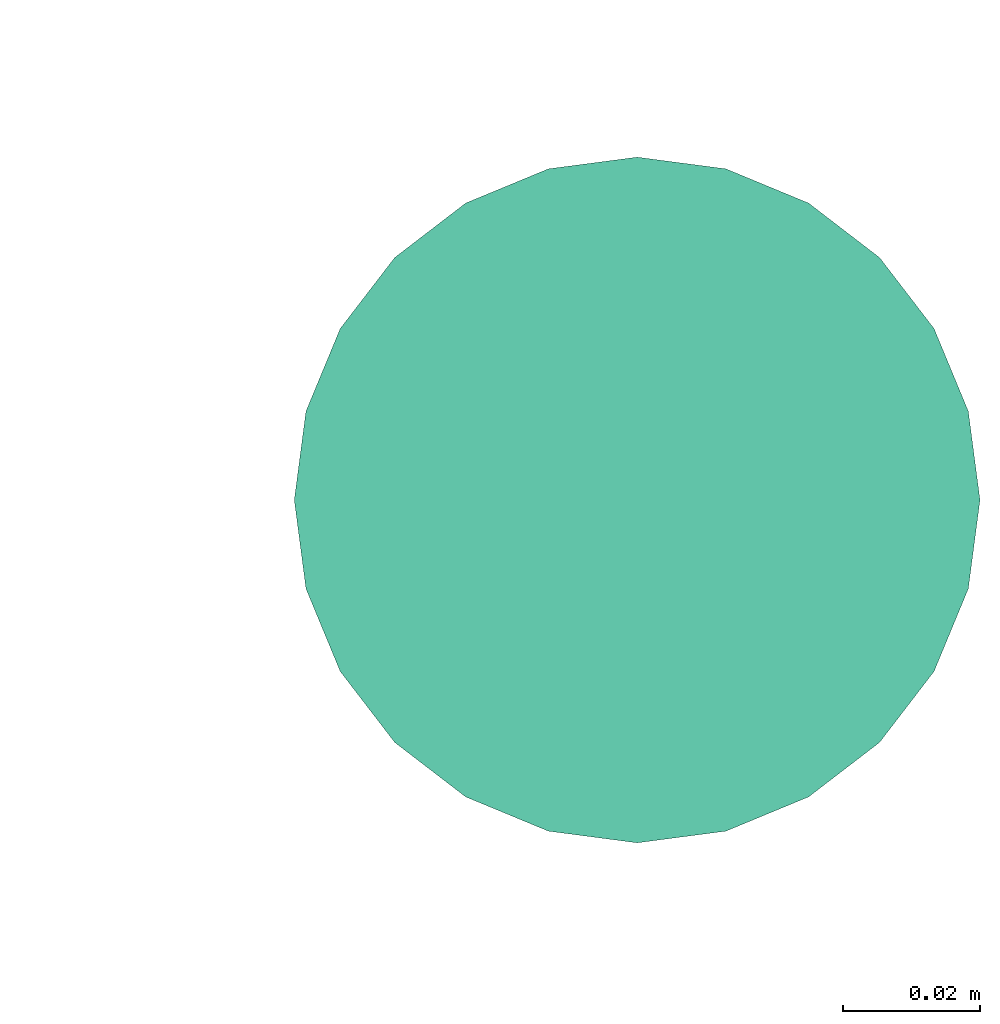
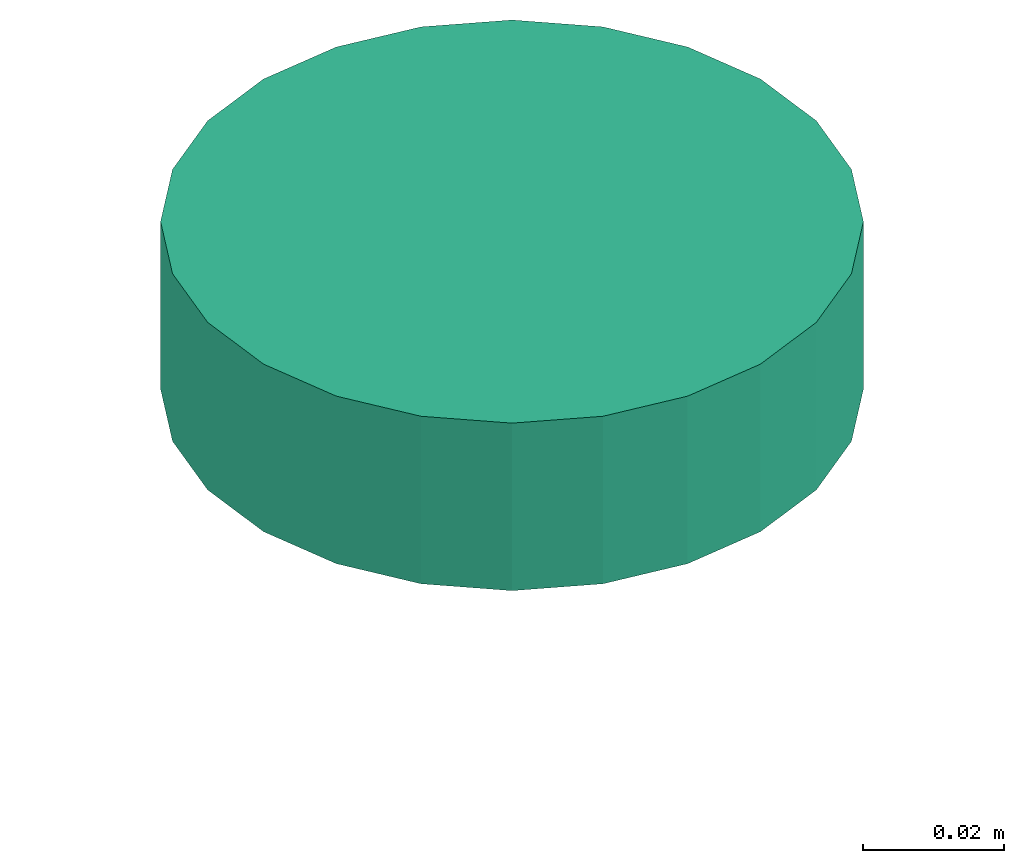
# One storey, part 2 of 3: 1 distribution control element.
"""IFC2X3 building model written with IfcOpenShell, lengths in millimetres."""

from ifc_helpers import new_model, entity, si_unit, converted_unit, derived_unit, direction, frame, origin_with_axes, place, context, subcontext, project, spatial, open_shell, surface_model, source, transform, mapped, type_object, element, save


model = new_model("IFC2X3")

# Units and contexts
model_context = context("Model", 3, precision=0.01, world=frame((0.0, 4.29681676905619e-09, 0.0)), true_north=direction((4.01073788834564e-13, 1.0)))
plan_context = context("Plan", 3, precision=0.01, world=frame((0.0, 4.29681676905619e-09, 0.0)), true_north=direction((4.01073788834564e-13, 1.0)))
body_context = subcontext(model_context, "Body", "Model", "MODEL_VIEW")
ifc_project = project(units=[converted_unit("PLANEANGLEUNIT", "DEGREE", entity("IfcPositiveLengthMeasure", 0.0174532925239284), si_unit("PLANEANGLEUNIT", "RADIAN"), dimensions=[0, 0, 0, 0, 0, 0, 0]), si_unit("AREAUNIT", "SQUARE_METRE"), si_unit("LENGTHUNIT", "METRE", prefix="MILLI"), si_unit("MASSUNIT", "GRAM", prefix="KILO"), si_unit("POWERUNIT", "WATT"), si_unit("PRESSUREUNIT", "PASCAL", prefix="KILO"), si_unit("FORCEUNIT", "NEWTON", prefix="KILO"), si_unit("ELECTRICVOLTAGEUNIT", "VOLT"), si_unit("ELECTRICCURRENTUNIT", "AMPERE"), si_unit("THERMODYNAMICTEMPERATUREUNIT", "DEGREE_CELSIUS"), si_unit("TIMEUNIT", "SECOND"), si_unit("VOLUMEUNIT", "CUBIC_METRE"), derived_unit("LINEARVELOCITYUNIT", [(si_unit("LENGTHUNIT", "METRE"), 1), (si_unit("TIMEUNIT", "SECOND"), -1)]), derived_unit("VOLUMETRICFLOWRATEUNIT", [(si_unit("VOLUMEUNIT", "CUBIC_METRE"), 1), (si_unit("TIMEUNIT", "SECOND"), -1)]), derived_unit("THERMALTRANSMITTANCEUNIT", [(si_unit("POWERUNIT", "WATT"), 1), (si_unit("THERMODYNAMICTEMPERATUREUNIT", "KELVIN"), -1), (si_unit("AREAUNIT", "SQUARE_METRE"), -1)]), derived_unit("SOUNDPRESSUREUNIT", [(si_unit("PRESSUREUNIT", "PASCAL"), 1)])], contexts=[model_context, plan_context])

# Site, building, storey
site_placement = place(None, frame((0.0, -4.29681676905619e-09, 0.0), z_axis=(0.0, 0.0, 1.0), x_axis=(1.0, 0.0, 0.0)))
site = spatial("IfcSite", under=ifc_project, at=site_placement, Name="ENGM", CompositionType="ELEMENT")
building_placement = place(site_placement, frame((0.0, 4.29681676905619e-09, 0.0), z_axis=(0.0, 0.0, 1.0), x_axis=(1.0, 0.0, 0.0)))
building = spatial("IfcBuilding", under=site, at=building_placement, Name="TS", CompositionType="ELEMENT")
storey_placement = place(building_placement, frame((0.0, 0.0, 204000.0), z_axis=(0.0, 0.0, 1.0), x_axis=(1.0, 0.0, 0.0)))
storey = spatial("IfcBuildingStorey", under=building, at=storey_placement, Name="Nivå D", CompositionType="ELEMENT", Elevation=204000.0)

# Distribution control element
alarm_type = type_object("IfcAlarmType", Name="Standard", PredefinedType="NOTDEFINED")
shared_shape = source(origin_with_axes(), body_context, "Body", "SurfaceModel", [
    surface_model("IfcShellBasedSurfaceModel", [(-25.0, 43.30127, -28.9), (-35.35534, 35.35534, -28.9), (-18.0, 31.17691, -28.9), (-25.45584, 25.45584, -28.9), (-9.31749, 34.77333, -28.9), (-12.94095, 48.29629, -28.9), (0.0, 36.0, -28.9), (0.0, 50.0, -28.9), (-34.77333, 9.31749, -28.9), (-43.30127, 25.0, -28.9), (-48.29629, 12.94095, -28.9), (-36.0, 0.0, -28.9), (-50.0, 0.0, -28.9), (-31.17691, 18.0, -28.9), (9.31749, 34.77333, -28.9), (12.94095, 48.29629, -28.9), (18.0, 31.17691, -28.9), (35.35534, 35.35534, -28.9), (25.0, 43.30127, -28.9), (25.45584, 25.45584, -28.9), (31.17691, 18.0, -28.9), (34.77333, 9.31749, -28.9), (43.30127, 25.0, -28.9), (48.29629, 12.94095, -28.9), (36.0, 0.0, -28.9), (50.0, 0.0, -28.9), (-34.77333, -9.31749, -28.9), (-48.29629, -12.94095, -28.9), (-31.17691, -18.0, -28.9), (-43.30127, -25.0, -28.9), (-25.45584, -25.45584, -28.9), (-35.35534, -35.35534, -28.9), (-18.0, -31.17691, -28.9), (-25.0, -43.30127, -28.9), (-9.31749, -34.77333, -28.9), (-12.94095, -48.29629, -28.9), (0.0, -36.0, -28.9), (0.0, -50.0, -28.9), (43.30127, -25.0, -28.9), (31.17691, -18.0, -28.9), (35.35534, -35.35534, -28.9), (34.77333, -9.31749, -28.9), (48.29629, -12.94095, -28.9), (25.45584, -25.45584, -28.9), (9.31749, -34.77333, -28.9), (12.94095, -48.29629, -28.9), (18.0, -31.17691, -28.9), (25.0, -43.30127, -28.9), (-25.0, -43.30127, -29.1), (-35.35534, -35.35534, -29.1), (-18.0, -31.17691, -29.1), (-25.45584, -25.45584, -29.1), (-9.31749, -34.77333, -29.1), (-12.94095, -48.29629, -29.1), (0.0, -36.0, -29.1), (0.0, -50.0, -29.1), (-34.77333, -9.31749, -29.1), (-43.30127, -25.0, -29.1), (-48.29629, -12.94095, -29.1), (-36.0, 0.0, -29.1), (-50.0, 0.0, -29.1), (-31.17691, -18.0, -29.1), (9.31749, -34.77333, -29.1), (12.94095, -48.29629, -29.1), (18.0, -31.17691, -29.1), (35.35534, -35.35534, -29.1), (25.0, -43.30127, -29.1), (25.45584, -25.45584, -29.1), (31.17691, -18.0, -29.1), (34.77333, -9.31749, -29.1), (43.30127, -25.0, -29.1), (48.29629, -12.94095, -29.1), (36.0, 0.0, -29.1), (50.0, 0.0, -29.1), (-34.77333, 9.31749, -29.1), (-48.29629, 12.94095, -29.1), (-31.17691, 18.0, -29.1), (-43.30127, 25.0, -29.1), (-25.45584, 25.45584, -29.1), (-35.35534, 35.35534, -29.1), (-18.0, 31.17691, -29.1), (-25.0, 43.30127, -29.1), (-9.31749, 34.77333, -29.1), (-12.94095, 48.29629, -29.1), (0.0, 36.0, -29.1), (0.0, 50.0, -29.1), (43.30127, 25.0, -29.1), (31.17691, 18.0, -29.1), (35.35534, 35.35534, -29.1), (34.77333, 9.31749, -29.1), (48.29629, 12.94095, -29.1), (25.45584, 25.45584, -29.1), (9.31749, 34.77333, -29.1), (12.94095, 48.29629, -29.1), (18.0, 31.17691, -29.1), (25.0, 43.30127, -29.1), (6.47048, -24.14815, -44.9), (12.5, -21.65064, -44.9), (17.67767, -17.67767, -44.9), (24.14815, -6.47048, -44.9), (-24.14815, -6.47048, -44.9), (21.65064, -12.5, -44.9), (-21.65064, 12.5, -44.9), (0.0, -25.0, -44.9), (-12.5, -21.65064, -44.9), (-6.47048, -24.14815, -44.9), (-17.67767, -17.67767, -44.9), (-21.65064, -12.5, -44.9), (25.0, 0.0, -44.9), (24.14815, 6.47048, -44.9), (21.65064, 12.5, -44.9), (17.67767, 17.67767, -44.9), (12.5, 21.65064, -44.9), (6.47048, 24.14815, -44.9), (0.0, 25.0, -44.9), (-25.0, 0.0, -44.9), (-24.14815, 6.47048, -44.9), (-12.5, 21.65064, -44.9), (-17.67767, 17.67767, -44.9), (-6.47048, 24.14815, -44.9), (0.0, 25.0, -45.1), (6.47048, 24.14815, -45.1), (12.5, 21.65064, -45.1), (-21.65064, 12.5, -45.1), (17.67767, 17.67767, -45.1), (21.65064, 12.5, -45.1), (24.14815, 6.47048, -45.1), (-12.5, 21.65064, -45.1), (-17.67767, 17.67767, -45.1), (-6.47048, 24.14815, -45.1), (-25.0, 0.0, -45.1), (-24.14815, 6.47048, -45.1), (-24.14815, -6.47048, -45.1), (24.14815, -6.47048, -45.1), (6.47048, -24.14815, -45.1), (21.65064, -12.5, -45.1), (17.67767, -17.67767, -45.1), (12.5, -21.65064, -45.1), (-12.5, -21.65064, -45.1), (-17.67767, -17.67767, -45.1), (-21.65064, -12.5, -45.1), (0.0, -25.0, -45.1), (-6.47048, -24.14815, -45.1), (25.0, 0.0, -45.1), (-1.46739, 34.60682, -29.0), (0.0, 34.8, -29.0), (0.0, 35.0, -29.0), (-34.60682, 1.46739, -29.0), (-35.0, 0.0, -29.0), (-34.8, 0.0, -29.0), (-17.5, 30.31089, -29.0), (-18.5742, 29.23669, -29.0), (-17.4, 30.13768, -29.0), (-24.60732, -24.60732, -29.0), (-18.5742, -29.23669, -29.0), (-29.23669, -18.5742, -29.0), (34.8, 0.0, -29.0), (34.60682, -1.46739, -29.0), (35.0, 0.0, -29.0), (17.4, 30.13768, -29.0), (17.5, 30.31089, -29.0), (16.03261, 30.70407, -29.0), (30.13768, 17.4, -29.0), (30.31089, 17.5, -29.0), (29.23669, 18.5742, -29.0), (34.60682, 1.46739, -29.0), (33.61422, -9.0069, -29.0), (30.70407, -16.03261, -29.0), (-33.61422, -9.0069, -29.0), (-30.70407, -16.03261, -29.0), (-34.60682, -1.46739, -29.0), (-30.13768, -17.4, -29.0), (-30.31089, -17.5, -29.0), (-17.5, -30.31089, -29.0), (-17.4, -30.13768, -29.0), (-1.46739, -34.60682, -29.0), (0.0, -35.0, -29.0), (0.0, -34.8, -29.0), (-16.03261, -30.70407, -29.0), (-9.0069, -33.61422, -29.0), (1.46739, -34.60682, -29.0), (30.13768, -17.4, -29.0), (29.23669, -18.5742, -29.0), (30.31089, -17.5, -29.0), (24.60732, -24.60732, -29.0), (18.5742, -29.23669, -29.0), (9.0069, -33.61422, -29.0), (16.03261, -30.70407, -29.0), (-30.13768, 17.4, -29.0), (-30.31089, 17.5, -29.0), (-30.70407, 16.03261, -29.0), (17.4, -30.13768, -29.0), (17.5, -30.31089, -29.0), (-33.61422, 9.0069, -29.0), (-29.23669, 18.5742, -29.0), (-24.60732, 24.60732, -29.0), (-16.03261, 30.70407, -29.0), (-9.0069, 33.61422, -29.0), (1.46739, 34.60682, -29.0), (9.0069, 33.61422, -29.0), (18.5742, 29.23669, -29.0), (24.60732, 24.60732, -29.0), (30.70407, 16.03261, -29.0), (33.61422, 9.0069, -29.0), (23.00389, 18.55381, -38.25), (14.9, 25.80756, -38.25), (21.07178, 21.07178, -38.25), (29.66376, 1.03484, -38.25), (30.0, 0.0, -38.25), (29.8, 0.0, -38.25), (24.27051, 17.63356, -38.25), (24.68215, 16.36666, -38.25), (10.52665, 27.61906, -38.25), (28.78459, 7.71281, -38.25), (-10.52665, 27.61906, -38.25), (-23.00389, 18.55381, -38.25), (-14.9, 25.80756, -38.25), (8.32335, 28.5317, -38.25), (0.0, 29.8, -38.25), (7.71281, 28.78459, -38.25), (-8.32335, 28.5317, -38.25), (-24.68215, 16.36666, -38.25), (-28.78459, 7.71281, -38.25), (-25.80756, 14.9, -38.25), (-9.27051, 28.5317, -38.25), (-29.66376, 1.03484, -38.25), (-29.8, 0.0, -38.25), (-30.0, 0.0, -38.25), (-28.78459, -7.71281, -38.25), (-24.68215, -16.36666, -38.25), (-25.80756, -14.9, -38.25), (29.66376, -1.03484, -38.25), (-7.71281, 28.78459, -38.25), (25.80756, 14.9, -38.25), (14.9, -25.80756, -38.25), (10.52665, -27.61906, -38.25), (23.00389, -18.55381, -38.25), (28.78459, -7.71281, -38.25), (24.68215, -16.36666, -38.25), (0.0, -29.8, -38.25), (-7.71281, -28.78459, -38.25), (-8.32335, -28.5317, -38.25), (8.32335, -28.5317, -38.25), (9.27051, 28.5317, -38.25), (-29.66376, -1.03484, -38.25), (21.07178, -21.07178, -38.25), (-23.00389, -18.55381, -38.25), (-24.27051, -17.63356, -38.25), (-9.27051, -28.5317, -38.25), (-10.52665, -27.61906, -38.25), (-21.07178, -21.07178, -38.25), (-14.9, -25.80756, -38.25), (9.27051, -28.5317, -38.25), (7.71281, -28.78459, -38.25), (24.27051, -17.63356, -38.25), (25.80756, -14.9, -38.25), (-21.07178, 21.07178, -38.25), (-24.27051, 17.63356, -38.25), (33.28589, -6.39713, -29.0), (27.13526, -8.81678, -38.25), (-16.77051, -23.08263, -38.25), (-23.90544, -23.90544, -29.0), (-27.13526, -8.81678, -38.25), (-33.28589, -6.39713, -29.0), (16.77051, -23.08263, -38.25), (8.75, -32.65544, -29.0), (0.0, -28.5317, -38.25), (23.90544, -23.90544, -29.0), (-8.75, -32.65544, -29.0), (-33.28589, 6.39713, -29.0), (-27.13526, 8.81678, -38.25), (16.77051, 23.08263, -38.25), (23.90544, 23.90544, -29.0), (27.13526, 8.81678, -38.25), (33.28589, 6.39713, -29.0), (-16.77051, 23.08263, -38.25), (-8.75, 32.65544, -29.0), (0.0, 28.5317, -38.25), (-23.90544, 23.90544, -29.0), (8.75, 32.65544, -29.0), (12.4, 21.47743, -45.0), (17.53625, 17.53625, -45.0), (19.07577, 15.5299, -45.0), (20.22543, 14.69463, -45.0), (20.59905, 13.54472, -45.0), (24.66376, 1.03484, -45.0), (25.0, 0.0, -45.0), (24.8, 0.0, -45.0), (8.88673, 22.93267, -45.0), (23.95496, 6.41871, -45.0), (-8.88673, 22.93267, -45.0), (-19.07577, 15.5299, -45.0), (-12.4, 21.47743, -45.0), (6.84976, 23.77641, -45.0), (0.0, 24.8, -45.0), (6.41871, 23.95496, -45.0), (-7.72542, 23.77641, -45.0), (-6.84976, 23.77641, -45.0), (-21.47743, 12.4, -45.0), (-20.59905, 13.54472, -45.0), (-23.95496, 6.41871, -45.0), (-25.0, 0.0, -45.0), (-24.66376, 1.03484, -45.0), (-24.8, 0.0, -45.0), (-23.95496, -6.41871, -45.0), (-20.59905, -13.54472, -45.0), (-21.47743, -12.4, -45.0), (-6.41871, 23.95496, -45.0), (24.66376, -1.03484, -45.0), (21.47743, 12.4, -45.0), (12.4, -21.47743, -45.0), (8.88673, -22.93267, -45.0), (19.07577, -15.5299, -45.0), (23.95496, -6.41871, -45.0), (20.59905, -13.54472, -45.0), (0.0, -24.8, -45.0), (-6.41871, -23.95496, -45.0), (-6.84976, -23.77641, -45.0), (7.72542, -23.77641, -45.0), (6.84976, -23.77641, -45.0), (7.72542, 23.77641, -45.0), (-24.66376, -1.03484, -45.0), (17.53625, -17.53625, -45.0), (-20.22543, -14.69463, -45.0), (-19.07577, -15.5299, -45.0), (-8.88673, -22.93267, -45.0), (-7.72542, -23.77641, -45.0), (-17.53625, -17.53625, -45.0), (-12.4, -21.47743, -45.0), (6.41871, -23.95496, -45.0), (20.22543, -14.69463, -45.0), (21.47743, -12.4, -45.0), (-17.53625, 17.53625, -45.0), (-20.22543, 14.69463, -45.0), (-22.61271, -7.34732, -45.0), (-13.97542, -19.23552, -45.0), (0.0, -23.77641, -45.0), (21.83768, -9.73262, -45.0), (13.97542, -19.23552, -45.0), (23.41884, -4.86631, -45.0), (22.61271, 7.34732, -45.0), (13.97542, 19.23552, -45.0), (0.0, 23.77641, -45.0), (-21.83768, 9.73262, -45.0), (-13.97542, 19.23552, -45.0), (-23.41884, 4.86631, -45.0), (12.94095, -48.29629, 0.0), (25.0, -43.30127, 0.0), (35.35534, -35.35534, 0.0), (48.29629, -12.94095, 0.0), (-48.29629, -12.94095, 0.0), (43.30127, -25.0, 0.0), (-43.30127, 25.0, 0.0), (0.0, -50.0, 0.0), (-25.0, -43.30127, 0.0), (-12.94095, -48.29629, 0.0), (-35.35534, -35.35534, 0.0), (-43.30127, -25.0, 0.0), (50.0, 0.0, 0.0), (48.29629, 12.94095, 0.0), (43.30127, 25.0, 0.0), (35.35534, 35.35534, 0.0), (25.0, 43.30127, 0.0), (12.94095, 48.29629, 0.0), (0.0, 50.0, 0.0), (-50.0, 0.0, 0.0), (-48.29629, 12.94095, 0.0), (-25.0, 43.30127, 0.0), (-35.35534, 35.35534, 0.0), (-12.94095, 48.29629, 0.0), (0.0, 50.0, -29.0), (12.94095, 48.29629, -29.0), (25.0, 43.30127, -29.0), (-43.30127, 25.0, -29.0), (35.35534, 35.35534, -29.0), (43.30127, 25.0, -29.0), (48.29629, 12.94095, -29.0), (-25.0, 43.30127, -29.0), (-35.35534, 35.35534, -29.0), (-12.94095, 48.29629, -29.0), (-50.0, 0.0, -29.0), (-48.29629, 12.94095, -29.0), (-48.29629, -12.94095, -29.0), (48.29629, -12.94095, -29.0), (12.94095, -48.29629, -29.0), (43.30127, -25.0, -29.0), (35.35534, -35.35534, -29.0), (25.0, -43.30127, -29.0), (-25.0, -43.30127, -29.0), (-35.35534, -35.35534, -29.0), (-43.30127, -25.0, -29.0), (0.0, -50.0, -29.0), (-12.94095, -48.29629, -29.0), (50.0, 0.0, -29.0)], [open_shell([[[0, 1, 2]], [[2, 1, 3]], [[0, 2, 4]], [[5, 4, 6]], [[4, 5, 0]], [[5, 6, 7]], [[8, 9, 10]], [[11, 10, 12]], [[8, 10, 11]], [[13, 3, 9]], [[8, 13, 9]], [[9, 3, 1]], [[7, 14, 15]], [[14, 7, 6]], [[15, 14, 16]], [[17, 18, 19]], [[16, 18, 15]], [[19, 18, 16]], [[20, 21, 22]], [[20, 22, 17]], [[21, 23, 22]], [[23, 21, 24]], [[23, 24, 25]], [[20, 17, 19]], [[26, 12, 27]], [[28, 27, 29]], [[28, 26, 27]], [[30, 28, 29]], [[29, 31, 30]], [[32, 31, 33]], [[31, 32, 30]], [[32, 33, 34]], [[34, 35, 36]], [[35, 34, 33]], [[36, 35, 37]], [[38, 39, 40]], [[41, 39, 42]], [[41, 42, 25]], [[42, 39, 38]], [[39, 43, 40]], [[25, 24, 41]], [[44, 37, 45]], [[37, 44, 36]], [[44, 45, 46]], [[47, 40, 43]], [[47, 46, 45]], [[47, 43, 46]], [[26, 11, 12]], [[48, 49, 50]], [[50, 49, 51]], [[48, 50, 52]], [[53, 52, 54]], [[52, 53, 48]], [[53, 54, 55]], [[56, 57, 58]], [[59, 58, 60]], [[56, 58, 59]], [[61, 51, 57]], [[56, 61, 57]], [[57, 51, 49]], [[55, 62, 63]], [[62, 55, 54]], [[63, 62, 64]], [[65, 66, 67]], [[64, 66, 63]], [[67, 66, 64]], [[68, 69, 70]], [[68, 70, 65]], [[69, 71, 70]], [[71, 69, 72]], [[71, 72, 73]], [[68, 65, 67]], [[74, 60, 75]], [[76, 75, 77]], [[76, 74, 75]], [[78, 76, 77]], [[77, 79, 78]], [[80, 79, 81]], [[79, 80, 78]], [[80, 81, 82]], [[82, 83, 84]], [[83, 82, 81]], [[84, 83, 85]], [[86, 87, 88]], [[89, 87, 90]], [[89, 90, 73]], [[90, 87, 86]], [[87, 91, 88]], [[73, 72, 89]], [[92, 85, 93]], [[85, 92, 84]], [[92, 93, 94]], [[95, 88, 91]], [[95, 94, 93]], [[95, 91, 94]], [[74, 59, 60]], [[11, 59, 8]], [[8, 74, 13]], [[2, 3, 78]], [[76, 3, 13]], [[4, 2, 80]], [[74, 76, 13]], [[8, 59, 74]], [[84, 6, 82]], [[4, 80, 82]], [[80, 2, 78]], [[3, 76, 78]], [[4, 82, 6]], [[14, 92, 16]], [[16, 94, 19]], [[21, 20, 87]], [[91, 20, 19]], [[24, 21, 89]], [[92, 94, 16]], [[14, 84, 92]], [[21, 87, 89]], [[87, 20, 91]], [[19, 94, 91]], [[24, 89, 72]], [[6, 84, 14]], [[24, 72, 41]], [[41, 69, 39]], [[46, 43, 67]], [[68, 43, 39]], [[44, 46, 64]], [[69, 68, 39]], [[41, 72, 69]], [[54, 36, 62]], [[44, 64, 62]], [[64, 46, 67]], [[43, 68, 67]], [[44, 62, 36]], [[34, 52, 32]], [[32, 50, 30]], [[26, 28, 61]], [[51, 28, 30]], [[11, 26, 56]], [[52, 50, 32]], [[34, 54, 52]], [[26, 61, 56]], [[61, 28, 51]], [[30, 50, 51]], [[11, 56, 59]], [[36, 54, 34]], [[58, 27, 60]], [[57, 29, 58]], [[33, 49, 48]], [[57, 49, 31]], [[35, 48, 53]], [[58, 29, 27]], [[27, 12, 60]], [[35, 33, 48]], [[31, 49, 33]], [[31, 29, 57]], [[37, 35, 53]], [[53, 55, 37]], [[63, 45, 55]], [[66, 47, 63]], [[38, 65, 70]], [[66, 65, 40]], [[42, 70, 71]], [[66, 40, 47]], [[47, 45, 63]], [[25, 42, 71]], [[38, 70, 42]], [[38, 40, 65]], [[73, 25, 71]], [[55, 45, 37]], [[90, 23, 73]], [[86, 22, 90]], [[18, 88, 95]], [[86, 88, 17]], [[15, 95, 93]], [[90, 22, 23]], [[23, 25, 73]], [[15, 18, 95]], [[17, 88, 18]], [[17, 22, 86]], [[7, 15, 93]], [[93, 85, 7]], [[83, 5, 85]], [[81, 0, 83]], [[9, 79, 77]], [[81, 79, 1]], [[10, 77, 75]], [[81, 1, 0]], [[0, 5, 83]], [[12, 10, 75]], [[9, 77, 10]], [[9, 1, 79]], [[60, 12, 75]], [[85, 5, 7]], [[96, 97, 98]], [[96, 98, 99]], [[96, 99, 100]], [[99, 98, 101]], [[102, 100, 99]], [[103, 104, 105]], [[103, 96, 104]], [[106, 100, 107]], [[106, 104, 96]], [[100, 106, 96]], [[99, 108, 102]], [[109, 110, 111]], [[109, 111, 112]], [[112, 113, 114]], [[109, 112, 102]], [[102, 112, 114]], [[115, 102, 116]], [[100, 102, 115]], [[102, 117, 118]], [[117, 102, 119]], [[114, 119, 102]], [[102, 108, 109]], [[120, 121, 122]], [[123, 120, 122]], [[124, 125, 126]], [[124, 126, 122]], [[123, 122, 126]], [[127, 123, 128]], [[123, 127, 129]], [[123, 130, 131]], [[123, 129, 120]], [[123, 132, 130]], [[123, 126, 133]], [[132, 123, 133]], [[134, 133, 135]], [[136, 137, 134]], [[136, 134, 135]], [[138, 133, 134]], [[132, 139, 140]], [[132, 133, 139]], [[138, 141, 142]], [[139, 133, 138]], [[134, 141, 138]], [[133, 126, 143]], [[132, 100, 130]], [[140, 107, 132]], [[104, 139, 138]], [[140, 139, 106]], [[105, 138, 142]], [[132, 107, 100]], [[100, 115, 130]], [[105, 104, 138]], [[106, 139, 104]], [[106, 107, 140]], [[103, 105, 142]], [[142, 141, 103]], [[134, 96, 141]], [[137, 97, 134]], [[101, 136, 135]], [[137, 136, 98]], [[99, 135, 133]], [[137, 98, 97]], [[97, 96, 134]], [[108, 99, 133]], [[101, 135, 99]], [[101, 98, 136]], [[143, 108, 133]], [[141, 96, 103]], [[126, 109, 143]], [[125, 110, 126]], [[112, 124, 122]], [[125, 124, 111]], [[113, 122, 121]], [[126, 110, 109]], [[109, 108, 143]], [[113, 112, 122]], [[111, 124, 112]], [[111, 110, 125]], [[114, 113, 121]], [[121, 120, 114]], [[129, 119, 120]], [[127, 117, 129]], [[102, 128, 123]], [[127, 128, 118]], [[116, 123, 131]], [[127, 118, 117]], [[117, 119, 129]], [[115, 116, 131]], [[102, 123, 116]], [[102, 118, 128]], [[130, 115, 131]], [[120, 119, 114]], [[144, 145, 146]], [[147, 148, 149]], [[150, 151, 152]], [[153, 154, 155]], [[156, 157, 158]], [[159, 160, 161]], [[162, 163, 164]], [[156, 158, 165]], [[166, 157, 167]], [[168, 169, 170]], [[170, 149, 148]], [[171, 169, 172]], [[173, 174, 154]], [[175, 176, 177]], [[174, 173, 178]], [[155, 171, 172]], [[179, 175, 178]], [[180, 177, 176]], [[181, 182, 183]], [[181, 183, 167]], [[184, 182, 185]], [[186, 187, 180]], [[188, 189, 190]], [[191, 192, 185]], [[191, 187, 192]], [[193, 147, 190]], [[188, 194, 189]], [[195, 194, 151]], [[152, 196, 150]], [[197, 196, 144]], [[145, 198, 146]], [[199, 198, 161]], [[159, 200, 160]], [[201, 200, 164]], [[162, 202, 163]], [[203, 202, 165]], [[204, 205, 206]], [[207, 208, 209]], [[204, 210, 211]], [[205, 204, 212]], [[213, 207, 211]], [[214, 215, 216]], [[217, 218, 219]], [[218, 217, 220]], [[221, 222, 223]], [[220, 214, 224]], [[225, 226, 227]], [[228, 229, 230]], [[209, 208, 231]], [[218, 220, 232]], [[213, 211, 233]], [[234, 235, 236]], [[237, 238, 231]], [[239, 240, 241]], [[241, 242, 239]], [[243, 212, 217]], [[227, 226, 244]], [[234, 236, 245]], [[229, 246, 247]], [[241, 248, 249]], [[250, 246, 251]], [[228, 244, 229]], [[235, 252, 242]], [[239, 242, 253]], [[236, 238, 254]], [[238, 237, 255]], [[251, 246, 249]], [[216, 215, 256]], [[215, 221, 257]], [[222, 221, 225]], [[208, 158, 258]], [[183, 259, 258]], [[260, 261, 247]], [[172, 262, 247]], [[263, 227, 262]], [[192, 252, 264]], [[260, 248, 173]], [[261, 260, 173]], [[252, 265, 266]], [[227, 263, 148]], [[172, 263, 262]], [[258, 259, 208]], [[254, 267, 264]], [[268, 173, 248]], [[252, 192, 265]], [[192, 264, 267]], [[267, 254, 183]], [[259, 183, 254]], [[268, 266, 176]], [[265, 176, 266]], [[248, 266, 268]], [[172, 247, 261]], [[227, 148, 269]], [[189, 270, 269]], [[271, 272, 210]], [[163, 273, 210]], [[274, 208, 273]], [[150, 224, 275]], [[271, 243, 160]], [[272, 271, 160]], [[224, 276, 277]], [[208, 274, 158]], [[163, 274, 273]], [[269, 270, 227]], [[257, 278, 275]], [[279, 160, 243]], [[224, 150, 276]], [[150, 275, 278]], [[278, 257, 189]], [[270, 189, 257]], [[279, 277, 146]], [[276, 146, 277]], [[243, 277, 279]], [[163, 210, 272]], [[171, 230, 228]], [[168, 228, 226]], [[179, 240, 251]], [[174, 251, 250]], [[153, 250, 230]], [[168, 171, 228]], [[226, 149, 168]], [[251, 174, 179]], [[174, 250, 153]], [[230, 171, 153]], [[240, 179, 177]], [[177, 239, 240]], [[184, 245, 234]], [[191, 234, 253]], [[156, 209, 237]], [[166, 237, 255]], [[181, 255, 245]], [[239, 186, 253]], [[186, 191, 253]], [[177, 186, 239]], [[184, 181, 245]], [[191, 184, 234]], [[181, 166, 255]], [[166, 156, 237]], [[162, 233, 213]], [[203, 213, 209]], [[199, 219, 205]], [[159, 205, 206]], [[201, 206, 233]], [[203, 162, 213]], [[209, 156, 203]], [[205, 159, 199]], [[159, 206, 201]], [[233, 162, 201]], [[219, 199, 145]], [[145, 218, 219]], [[195, 256, 216]], [[152, 216, 232]], [[149, 226, 222]], [[193, 222, 223]], [[188, 223, 256]], [[218, 197, 232]], [[197, 152, 232]], [[145, 197, 218]], [[195, 188, 256]], [[152, 195, 216]], [[188, 193, 223]], [[193, 149, 222]], [[215, 216, 256]], [[221, 222, 225]], [[225, 227, 226]], [[257, 221, 215]], [[216, 215, 214]], [[212, 204, 205]], [[220, 218, 232]], [[218, 220, 217]], [[217, 212, 243]], [[233, 211, 213]], [[208, 207, 209]], [[237, 238, 255]], [[252, 235, 242]], [[218, 217, 219]], [[227, 244, 226]], [[222, 221, 223]], [[228, 229, 244]], [[239, 253, 242]], [[246, 251, 249]], [[249, 248, 241]], [[231, 238, 237]], [[208, 209, 231]], [[251, 246, 250]], [[254, 238, 236]], [[236, 234, 245]], [[214, 220, 224]], [[242, 241, 239]], [[239, 241, 240]], [[246, 229, 247]], [[230, 229, 228]], [[234, 236, 235]], [[205, 204, 206]], [[204, 211, 210]], [[213, 211, 207]], [[280, 281, 282]], [[282, 283, 284]], [[285, 286, 287]], [[280, 282, 288]], [[289, 285, 284]], [[290, 291, 292]], [[293, 294, 295]], [[290, 296, 297]], [[294, 293, 297]], [[298, 299, 300]], [[301, 302, 303]], [[304, 305, 306]], [[294, 297, 307]], [[308, 287, 286]], [[289, 284, 309]], [[310, 311, 312]], [[313, 314, 308]], [[315, 316, 317]], [[311, 318, 319]], [[293, 320, 288]], [[301, 303, 321]], [[310, 312, 322]], [[323, 305, 324]], [[325, 317, 326]], [[327, 324, 328]], [[304, 321, 305]], [[317, 319, 315]], [[315, 319, 329]], [[312, 314, 330]], [[331, 314, 313]], [[328, 324, 325]], [[292, 291, 332]], [[291, 299, 333]], [[300, 299, 302]], [[262, 301, 334]], [[334, 323, 247]], [[248, 335, 326]], [[301, 262, 227]], [[334, 247, 262]], [[260, 323, 335]], [[266, 248, 326]], [[336, 252, 266]], [[252, 336, 318]], [[323, 260, 247]], [[248, 260, 335]], [[254, 337, 259]], [[318, 264, 252]], [[338, 254, 264]], [[339, 286, 208]], [[264, 318, 338]], [[259, 339, 208]], [[338, 330, 254]], [[266, 326, 336]], [[259, 337, 339]], [[337, 254, 330]], [[273, 286, 340]], [[340, 283, 210]], [[243, 341, 320]], [[286, 273, 208]], [[340, 210, 273]], [[271, 283, 341]], [[277, 243, 320]], [[342, 224, 277]], [[224, 342, 296]], [[283, 271, 210]], [[243, 271, 341]], [[257, 343, 270]], [[296, 275, 224]], [[344, 257, 275]], [[345, 301, 227]], [[275, 296, 344]], [[270, 345, 227]], [[344, 333, 257]], [[277, 320, 342]], [[270, 343, 345]], [[343, 257, 333]], [[230, 306, 304]], [[228, 304, 303]], [[240, 316, 328]], [[251, 328, 327]], [[250, 327, 306]], [[228, 230, 304]], [[303, 226, 228]], [[328, 251, 240]], [[251, 327, 250]], [[306, 230, 250]], [[316, 240, 239]], [[239, 315, 316]], [[245, 322, 310]], [[234, 310, 329]], [[209, 287, 313]], [[237, 313, 331]], [[255, 331, 322]], [[315, 253, 329]], [[253, 234, 329]], [[239, 253, 315]], [[255, 322, 245]], [[234, 245, 310]], [[331, 255, 237]], [[237, 209, 313]], [[233, 309, 289]], [[213, 289, 287]], [[219, 295, 280]], [[205, 280, 281]], [[206, 281, 309]], [[213, 233, 289]], [[287, 209, 213]], [[280, 205, 219]], [[205, 281, 206]], [[309, 233, 206]], [[295, 219, 218]], [[218, 294, 295]], [[256, 332, 292]], [[216, 292, 307]], [[226, 303, 300]], [[222, 300, 298]], [[223, 298, 332]], [[294, 232, 307]], [[232, 216, 307]], [[218, 232, 294]], [[223, 332, 256]], [[216, 256, 292]], [[298, 223, 222]], [[222, 226, 300]], [[346, 347, 348]], [[346, 348, 349]], [[346, 349, 350]], [[349, 348, 351]], [[352, 350, 349]], [[353, 354, 355]], [[353, 346, 354]], [[356, 350, 357]], [[356, 354, 346]], [[350, 356, 346]], [[349, 358, 352]], [[359, 360, 361]], [[359, 361, 362]], [[362, 363, 364]], [[359, 362, 352]], [[352, 362, 364]], [[365, 352, 366]], [[350, 352, 365]], [[352, 367, 368]], [[367, 352, 369]], [[364, 369, 352]], [[352, 358, 359]], [[370, 371, 372]], [[373, 370, 372]], [[374, 375, 376]], [[374, 376, 372]], [[373, 372, 376]], [[377, 373, 378]], [[373, 377, 379]], [[373, 380, 381]], [[373, 379, 370]], [[373, 382, 380]], [[373, 376, 383]], [[382, 373, 383]], [[384, 383, 385]], [[386, 387, 384]], [[386, 384, 385]], [[388, 383, 384]], [[382, 389, 390]], [[382, 383, 389]], [[388, 391, 392]], [[389, 383, 388]], [[384, 391, 388]], [[383, 376, 393]], [[382, 350, 380]], [[390, 357, 382]], [[354, 389, 388]], [[390, 389, 356]], [[355, 388, 392]], [[382, 357, 350]], [[350, 365, 380]], [[355, 354, 388]], [[356, 389, 354]], [[356, 357, 390]], [[353, 355, 392]], [[392, 391, 353]], [[384, 346, 391]], [[387, 347, 384]], [[351, 386, 385]], [[387, 386, 348]], [[349, 385, 383]], [[387, 348, 347]], [[347, 346, 384]], [[358, 349, 383]], [[351, 385, 349]], [[351, 348, 386]], [[393, 358, 383]], [[391, 346, 353]], [[376, 359, 393]], [[375, 360, 376]], [[362, 374, 372]], [[375, 374, 361]], [[363, 372, 371]], [[376, 360, 359]], [[359, 358, 393]], [[363, 362, 372]], [[361, 374, 362]], [[361, 360, 375]], [[364, 363, 371]], [[371, 370, 364]], [[369, 370, 379]], [[367, 379, 377]], [[352, 373, 381]], [[366, 381, 380]], [[379, 367, 369]], [[367, 377, 378]], [[367, 378, 368]], [[368, 378, 352]], [[352, 378, 373]], [[352, 381, 366]], [[380, 365, 366]], [[370, 369, 364]]])]),
])
distribution_control_element_placement = place(storey_placement, frame((598525.33034, 403869.26193, 3083.0), z_axis=(0.0, 0.0, 1.0), x_axis=(1.0, 0.0, 0.0)))
element("IfcDistributionControlElement", 1, at=distribution_control_element_placement, inside=storey, type_object=alarm_type, Name="Standard", context=body_context, shape_type="MappedRepresentation", body=[
    mapped(shared_shape, transform((0.0, 0.0, 0.0), scale=1.0)),
])

save(model, "model.ifc")
